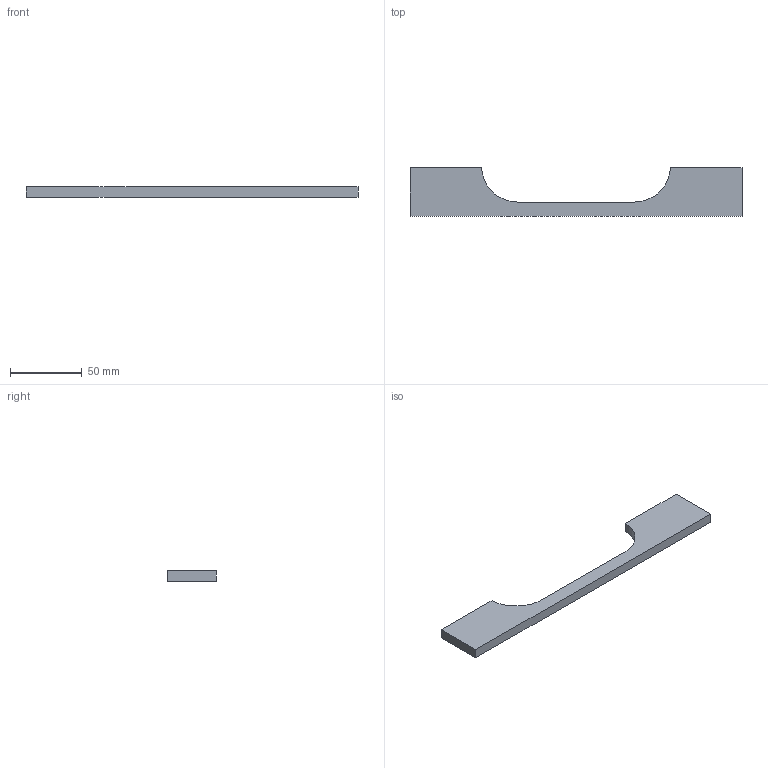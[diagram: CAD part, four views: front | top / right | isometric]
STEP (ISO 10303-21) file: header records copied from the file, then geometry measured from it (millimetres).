
FILE_DESCRIPTION( ( 'STEP AP214' ), '1' );
FILE_NAME( 'C:/Users/swati/Desktop/10-03-2016/11-03-2016/9071926/9071926.stp', ' ', ( ' ' ), ( ' ' ), 'PSStep 15.0.47', 'PARTsolutions', ' ' );
FILE_SCHEMA( ( 'AUTOMOTIVE_DESIGN { 1 0 10303 214 1 1 1 1 }' ) );
Length unit declared in the file: millimetre
Products named in the file (2): 95 ; _
Assembly tree (1 placements, depth 2):
  95 
    _
Bounding box: 232 x 34 x 7 mm (x, y, z)
Volume: 34508.8 mm3; surface area: 14286.7 mm2
Topology: 1 solids, 1 shells, 18 faces, 36 edges, 24 vertices
Faces by surface type: plane 12, cylinder 6
Full cylindrical faces by diameter (mm): 4 x4
Entity records: 634 total; most frequent: DIRECTION 84, CARTESIAN_POINT 76, ORIENTED_EDGE 64, AXIS2_PLACEMENT_3D 32, EDGE_CURVE 32, EDGE_LOOP 26, VERTEX_POINT 24, FACE_OUTER_BOUND 22
